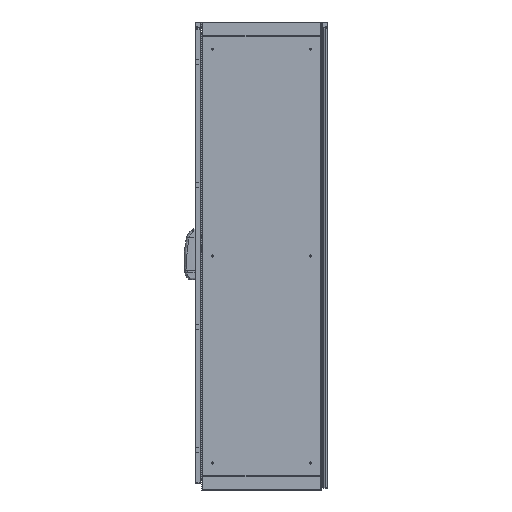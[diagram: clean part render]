
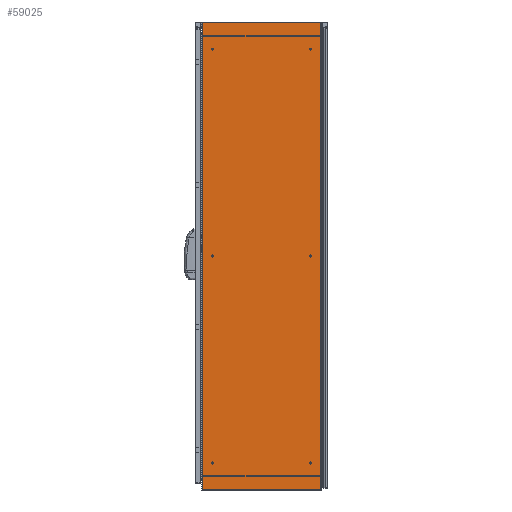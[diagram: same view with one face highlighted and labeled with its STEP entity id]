
A CAD part, left-side view. The second image highlights one B-rep face of the part: STEP entity #59025.
In plain terms, the highlighted planar face has unit normal (-1, 0, 0).
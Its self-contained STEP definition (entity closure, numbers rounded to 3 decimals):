
#1706 = DIRECTION ( 'NONE',  ( 0., -1., 0. ) ) ;
#3308 = VECTOR ( 'NONE', #16625, 1000. ) ;
#3361 = ORIENTED_EDGE ( 'NONE', *, *, #55731, .T. ) ;
#4038 = DIRECTION ( 'NONE',  ( 0., 0., -1. ) ) ;
#4139 = ORIENTED_EDGE ( 'NONE', *, *, #14057, .T. ) ;
#5151 = CARTESIAN_POINT ( 'NONE',  ( -500., 233.5, 1809. ) ) ;
#7504 = EDGE_LOOP ( 'NONE', ( #33367, #3361, #26507, #4139 ) ) ;
#10046 = CARTESIAN_POINT ( 'NONE',  ( -500., 229.43, 1809. ) ) ;
#11711 = DIRECTION ( 'NONE',  ( 0., -1., 0. ) ) ;
#14057 = EDGE_CURVE ( 'NONE', #31629, #49731, #69774, .T. ) ;
#16625 = DIRECTION ( 'NONE',  ( 0., 0., 1. ) ) ;
#20534 = CARTESIAN_POINT ( 'NONE',  ( -500., 229.43, 1809. ) ) ;
#20926 = LINE ( 'NONE', #55339, #32191 ) ;
#21816 = CARTESIAN_POINT ( 'NONE',  ( -500., 229.43, 0. ) ) ;
#23776 = CARTESIAN_POINT ( 'NONE',  ( -500., -229.43, 1809. ) ) ;
#26507 = ORIENTED_EDGE ( 'NONE', *, *, #27556, .F. ) ;
#27556 = EDGE_CURVE ( 'NONE', #31629, #43315, #59648, .T. ) ;
#29781 = CARTESIAN_POINT ( 'NONE',  ( -500., 233.5, 1809. ) ) ;
#31629 = VERTEX_POINT ( 'NONE', #20534 ) ;
#32191 = VECTOR ( 'NONE', #1706, 1000. ) ;
#33367 = ORIENTED_EDGE ( 'NONE', *, *, #68567, .T. ) ;
#42333 = DIRECTION ( 'NONE',  ( 0., 0., -1. ) ) ;
#43284 = PLANE ( 'NONE',  #73321 ) ;
#43315 = VERTEX_POINT ( 'NONE', #23776 ) ;
#44630 = CARTESIAN_POINT ( 'NONE',  ( -500., -229.43, 0. ) ) ;
#49731 = VERTEX_POINT ( 'NONE', #21816 ) ;
#53570 = VECTOR ( 'NONE', #42333, 1000. ) ;
#55339 = CARTESIAN_POINT ( 'NONE',  ( -500., 233.5, 0. ) ) ;
#55731 = EDGE_CURVE ( 'NONE', #82979, #43315, #57153, .T. ) ;
#57153 = LINE ( 'NONE', #83763, #3308 ) ;
#59025 = ADVANCED_FACE ( 'NONE', ( #64634 ), #43284, .F. ) ;
#59648 = LINE ( 'NONE', #5151, #70108 ) ;
#64634 = FACE_OUTER_BOUND ( 'NONE', #7504, .T. ) ;
#68567 = EDGE_CURVE ( 'NONE', #49731, #82979, #20926, .T. ) ;
#69774 = LINE ( 'NONE', #10046, #53570 ) ;
#69884 = DIRECTION ( 'NONE',  ( 1., 0., 0. ) ) ;
#70108 = VECTOR ( 'NONE', #11711, 1000. ) ;
#73321 = AXIS2_PLACEMENT_3D ( 'NONE', #29781, #69884, #4038 ) ;
#82979 = VERTEX_POINT ( 'NONE', #44630 ) ;
#83763 = CARTESIAN_POINT ( 'NONE',  ( -500., -229.43, 1809. ) ) ;
